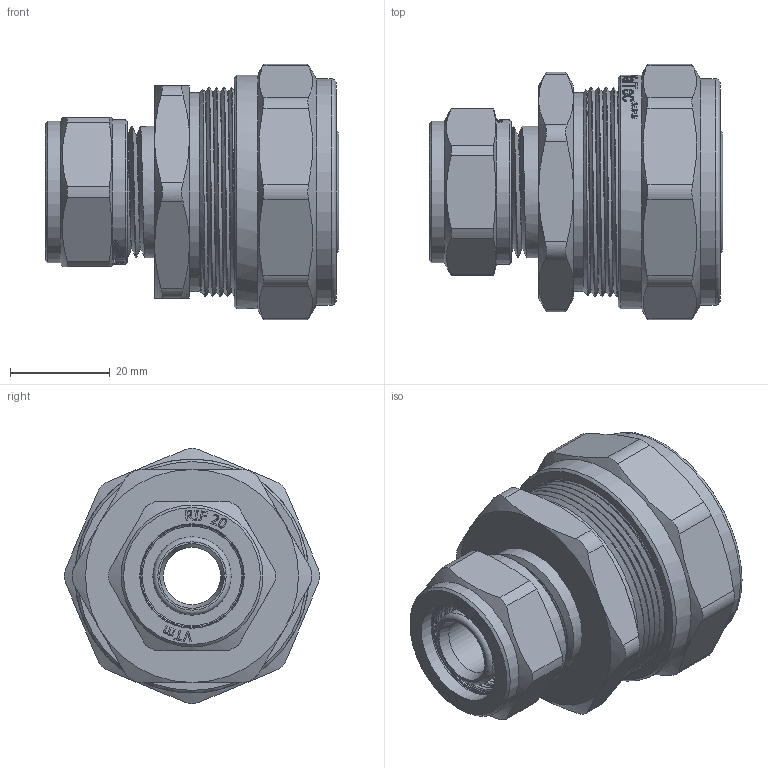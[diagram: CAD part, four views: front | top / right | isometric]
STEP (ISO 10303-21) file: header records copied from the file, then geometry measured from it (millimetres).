
FILE_DESCRIPTION(/* description */ (''),/* implementation_level */ '2;1');
FILE_NAME(/* name */ 'E:\Артём\00000\Работа удаленка\Обжимные фитинги\VTm.303.N.003220.stp',/* time_stamp */ '2020-06-10T15:44:12+03:00',/* author */ ('BeN_GaN'),/* organization */ (''),/* preprocessor_version */ 'ST-DEVELOPER v18',/* originating_system */ 'Autodesk Inventor 2020',/* authorisation */ '');
FILE_SCHEMA (('AUTOMOTIVE_DESIGN { 1 0 10303 214 3 1 1 }'));
Products named in the file (1): VTm.303.N.003220
Bounding box: 58.98 x 51.3 x 51.3 mm (x, y, z)
Volume: 47857 mm3; surface area: 27745.5 mm2
Topology: 1 solids, 2 shells, 1286 faces, 3634 edges, 2456 vertices
Faces by surface type: bspline 713, plane 332, cylinder 156, torus 47, cone 38
Full cylindrical faces by diameter (mm): 11.5 x1, 13.4 x2, 15.75 x4, 19.986 x4, 20 x1, 20.2 x1, 20.728 x5, 21 x1, 22.8 x1, 23.201 x1, 23.4 x2, 24.2 x1, 25.75 x5, 26.4 x2, 28.5 x1, 29 x1, 30.538 x4, 31.683 x5, 32.2 x1, 32.7 x1, 35.5 x1, 40 x1, 40.4 x5, 40.5 x1, 42 x4, 45.5 x1, 47 x1
Entity records: 54769 total; most frequent: CARTESIAN_POINT 26006, ORIENTED_EDGE 7268, DIRECTION 3782, EDGE_CURVE 3634, VERTEX_POINT 2456, B_SPLINE_CURVE_WITH_KNOTS 1526, LINE 1478, VECTOR 1478
